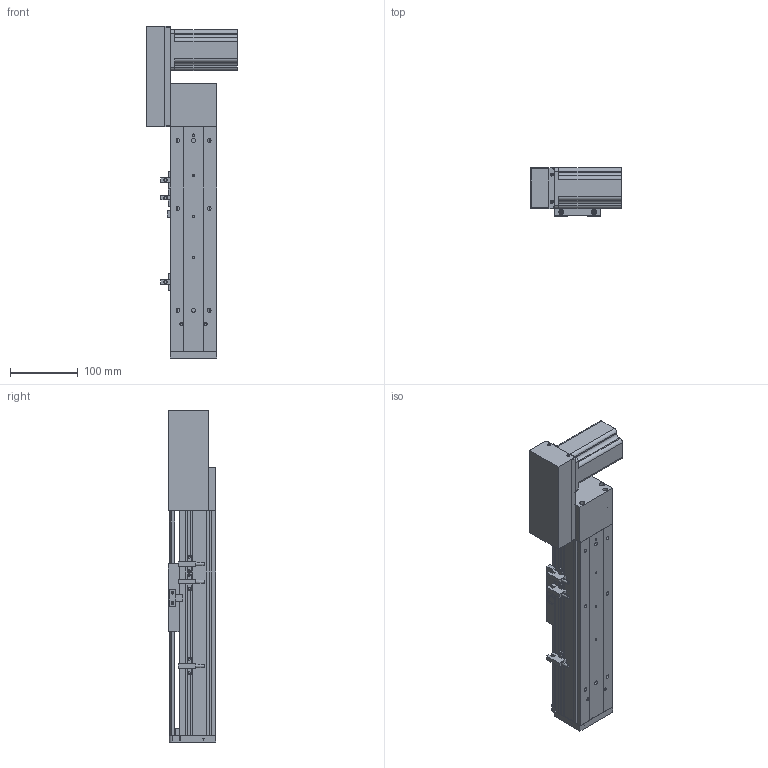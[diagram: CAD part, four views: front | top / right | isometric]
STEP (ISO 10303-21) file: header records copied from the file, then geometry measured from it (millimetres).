
FILE_DESCRIPTION (( 'STEP AP203' ), '1' );
FILE_NAME ('ML68-S150-CR.STEP', '2016-08-04T12:37:02', ( '' ), ( '' ), 'SwSTEP 2.0', 'SolidWorks 2014', '' );
FILE_SCHEMA (( 'CONFIG_CONTROL_DESIGN' ));
Length unit declared in the file: millimetre
Products named in the file (12): ML68-BL傷啣; ML68傷啣; QS68酘衵殏萇儂啣; 60換覜結え; ML68-S150-CR; 三协电机MH201N2_預設; QS68左右折电机板罩子; 葩璃 ML68菁釱^ML68-S150-CR; ML68奻裔^ML68-S150-CR; ML68雄赽釱; 換覜ん; ML68滅鳥啣盓傅輸
Assembly tree (13 placements, depth 2):
  ML68-S150-CR
    葩璃 ML68菁釱^ML68-S150-CR
    ML68奻裔^ML68-S150-CR
    ML68傷啣
    ML68-BL傷啣
    60換覜結え
    換覜ん  x3
    三协电机MH201N2_預設
    ML68雄赽釱
    QS68酘衵殏萇儂啣
    QS68左右折电机板罩子
    ML68滅鳥啣盓傅輸
Bounding box: 133.5 x 70.5 x 488.5 mm (x, y, z)
Volume: 1149445.7 mm3; surface area: 371894.9 mm2
Topology: 13 solids, 13 shells, 833 faces, 2276 edges, 1441 vertices
Faces by surface type: cylinder 372, plane 365, cone 96
Entity records: 26008 total; most frequent: CARTESIAN_POINT 4714, DIRECTION 4298, ORIENTED_EDGE 4052, EDGE_CURVE 2026, AXIS2_PLACEMENT_3D 1541, VERTEX_POINT 1329, LINE 1216, VECTOR 1216
